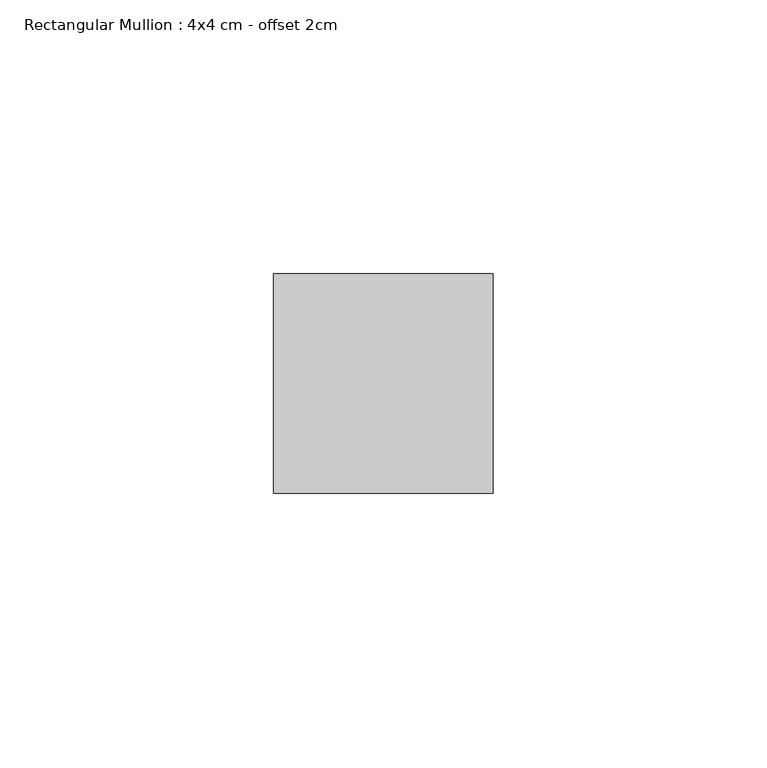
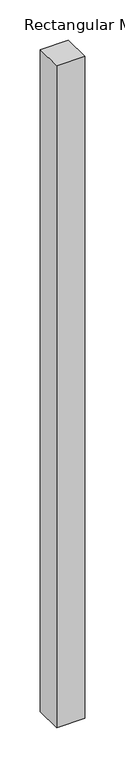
"""IFC4 building model written with IfcOpenShell, lengths in millimetres: member geometry, Rectangular Mullion : 4x4 cm - offset 2cm."""

from ifc_helpers import new_model, si_unit, frame, origin, place, context, project, spatial, polyline, outline, extrude, source, transform, mapped, element, save


def rectangular_mullion_4x4_cm_offset_2cm_ccbd703a(model_context):
    return source(origin(), model_context, "Body", "SweptSolid", [
        extrude(outline(polyline([(0.0, 0.0), (0.0, -40.0), (-40.0, -40.0), (-40.0, 0.0), (0.0, 0.0)])), frame((0.0, 0.0, -1000.0000003), z_axis=(0.0, 0.0, 1.0), x_axis=(1.0, 0.0, 0.0)), (0.0, 0.0, 1.0), 1000.0000003),
    ])


if __name__ == "__main__":
    model = new_model("IFC4")
    model_context = context("Model", 3, world=origin())
    ifc_project = project(units=[si_unit("LENGTHUNIT", "METRE", prefix="MILLI")], contexts=[model_context])
    site = spatial("IfcSite", under=ifc_project)
    building = spatial("IfcBuilding", under=site)
    placement = place(None, origin())
    rectangular_mullion_4x4_cm_offset_2cm_shape = rectangular_mullion_4x4_cm_offset_2cm_ccbd703a(model_context)
    element("IfcMember", 1, ObjectType="Rectangular Mullion : 4x4 cm - offset 2cm", at=placement, inside=building, context=model_context, shape_type="MappedRepresentation", body=[
        mapped(rectangular_mullion_4x4_cm_offset_2cm_shape, transform((0.0, 0.0, 0.0), x_axis=(1.0, 0.0, 0.0), y_axis=(0.0, 1.0, 0.0), z_axis=(0.0, 0.0, 1.0))),
    ])
    save(model, "model.ifc")
